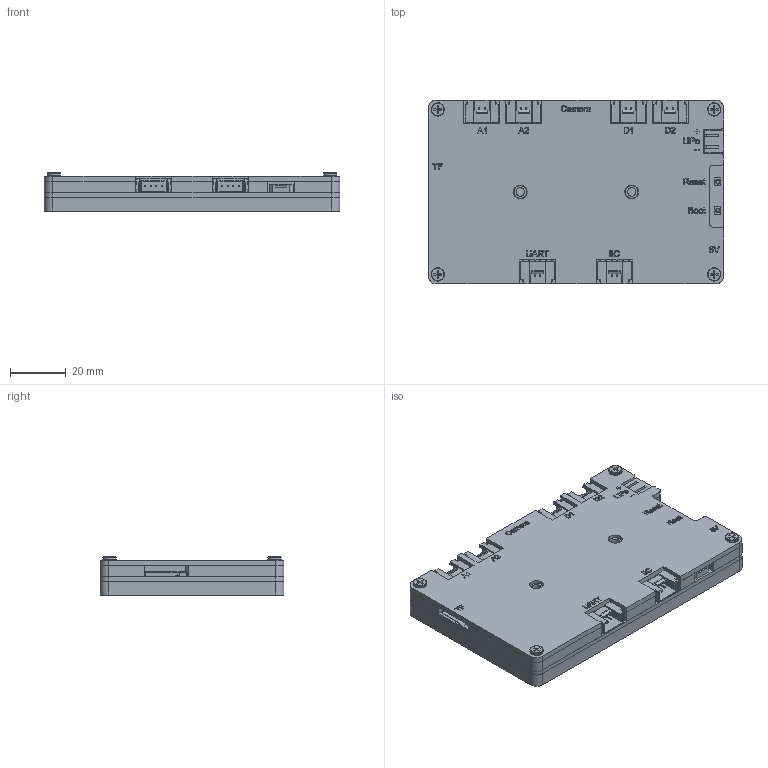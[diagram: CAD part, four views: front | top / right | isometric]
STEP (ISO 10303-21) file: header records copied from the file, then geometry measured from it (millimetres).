
FILE_DESCRIPTION(/* description */ (''),/* implementation_level */ '2;1');
FILE_NAME(/* name */ 'ESP323~1',/* time_stamp */ '2025-07-18T18:30:09+08:00',/* author */ (''),/* organization */ (''),/* preprocessor_version */ 'ST-DEVELOPER v16.5',/* originating_system */ '',/* authorisation */ '');
FILE_SCHEMA (('CONFIG_CONTROL_DESIGN'));
Products named in the file (1): Document
Bounding box: 106 x 66.01 x 13.73 mm (x, y, z)
Volume: 70021.5 mm3; surface area: 93050.4 mm2
Topology: 72 solids, 75 shells, 5210 faces, 12764 edges, 7758 vertices
Faces by surface type: plane 2529, cylinder 1514, bspline 1167
Entity records: 154609 total; most frequent: CARTESIAN_POINT 71547, ORIENTED_EDGE 25500, EDGE_CURVE 12760, B_SPLINE_CURVE_WITH_KNOTS 8496, VERTEX_POINT 7758, EDGE_LOOP 5376, ADVANCED_FACE 5210, FACE_OUTER_BOUND 5210
